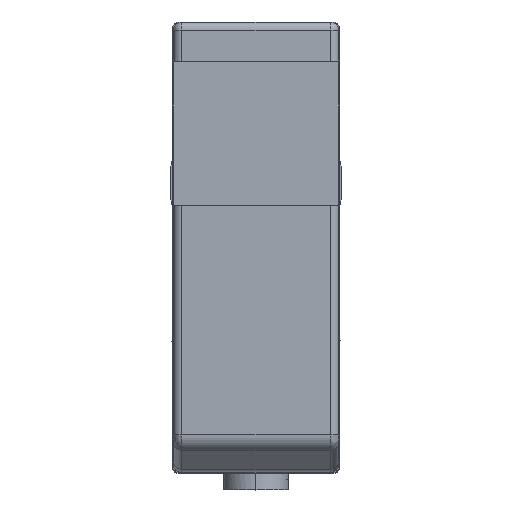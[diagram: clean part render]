
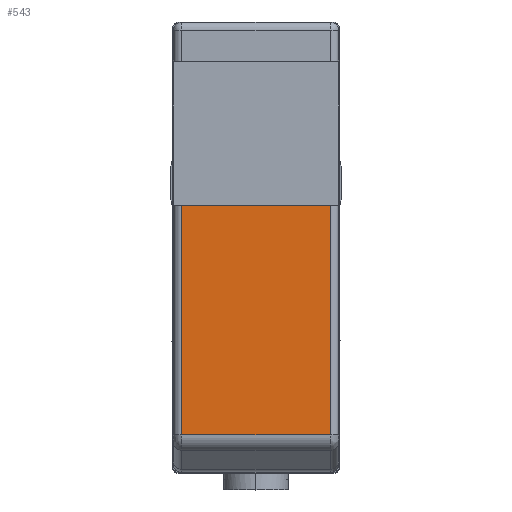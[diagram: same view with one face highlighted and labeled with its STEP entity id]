
A CAD part, top view. The second image highlights one B-rep face of the part: STEP entity #543.
In plain terms, the highlighted planar face has unit normal (0, 0, 1).
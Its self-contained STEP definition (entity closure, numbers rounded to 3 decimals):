
#543=ADVANCED_FACE('',(#3062),#3061,.F.);
#3061=PLANE('',#4952);
#3062=FACE_OUTER_BOUND('',#4953,.T.);
#4949=CARTESIAN_POINT('',(5.34,-26.133,27.4));
#4950=DIRECTION('',(0.,0.,-1.));
#4951=DIRECTION('',(-1.,0.,0.));
#4952=AXIS2_PLACEMENT_3D('',#4949,#4950,#4951);
#4953=EDGE_LOOP('',(#6529,#6530,#6531,#6532));
#6529=ORIENTED_EDGE('',*,*,#7225,.F.);
#6530=ORIENTED_EDGE('',*,*,#7282,.T.);
#6531=ORIENTED_EDGE('',*,*,#7370,.T.);
#6532=ORIENTED_EDGE('',*,*,#7305,.T.);
#7225=EDGE_CURVE('',#10855,#10862,#10863,.T.);
#7282=EDGE_CURVE('',#10855,#11244,#11251,.T.);
#7305=EDGE_CURVE('',#11382,#10862,#11401,.T.);
#7370=EDGE_CURVE('',#11244,#11382,#11827,.T.);
#10855=VERTEX_POINT('',#14360);
#10862=VERTEX_POINT('',#14365);
#10863=LINE('',#14366,#14367);
#11244=VERTEX_POINT('',#14604);
#11251=LINE('',#14609,#14610);
#11382=VERTEX_POINT('',#14692);
#11401=LINE('',#14705,#14706);
#11827=LINE('',#14950,#14951);
#14360=CARTESIAN_POINT('',(-4.45,-11.,27.4));
#14365=CARTESIAN_POINT('',(4.45,-11.,27.4));
#14366=CARTESIAN_POINT('',(-4.45,-11.,27.4));
#14367=VECTOR('',#14368,8.9);
#14368=DIRECTION('',(1.,0.,0.));
#14604=CARTESIAN_POINT('',(-4.45,-24.758,27.4));
#14609=CARTESIAN_POINT('',(-4.45,-11.,27.4));
#14610=VECTOR('',#14611,13.758);
#14611=DIRECTION('',(0.,-1.,0.));
#14692=CARTESIAN_POINT('',(4.45,-24.758,27.4));
#14705=CARTESIAN_POINT('',(4.45,-24.758,27.4));
#14706=VECTOR('',#14707,13.758);
#14707=DIRECTION('',(0.,1.,0.));
#14950=CARTESIAN_POINT('',(-4.45,-24.758,27.4));
#14951=VECTOR('',#14952,8.9);
#14952=DIRECTION('',(1.,0.,0.));
